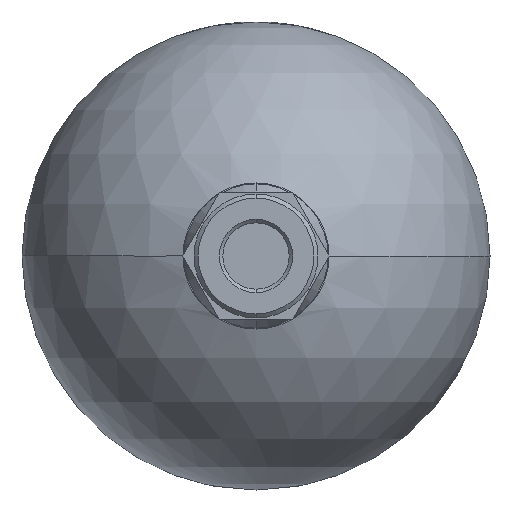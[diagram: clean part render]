
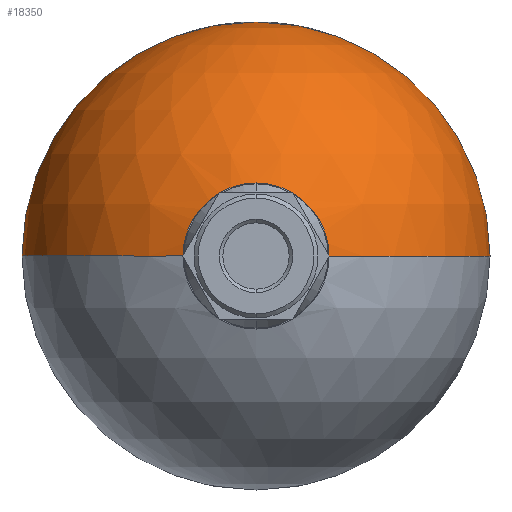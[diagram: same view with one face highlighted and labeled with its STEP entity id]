
A CAD part, front view. The second image highlights one B-rep face of the part: STEP entity #18350.
In plain terms, the highlighted spherical face has radius 85 mm.
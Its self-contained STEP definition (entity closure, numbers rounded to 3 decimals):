
#17 = ORIENTED_EDGE ( 'NONE', *, *, #10500, .T. ) ;
#347 = CARTESIAN_POINT ( 'NONE',  ( 0., 115.17, 0. ) ) ;
#1124 = CARTESIAN_POINT ( 'NONE',  ( 26.541, 34.42, 0. ) ) ;
#1386 = CIRCLE ( 'NONE', #16449, 26.541 ) ;
#1974 = DIRECTION ( 'NONE',  ( 0., 1., 0. ) ) ;
#2063 = DIRECTION ( 'NONE',  ( 0., 0., 1. ) ) ;
#2237 = VERTEX_POINT ( 'NONE', #13927 ) ;
#3668 = DIRECTION ( 'NONE',  ( 1., 0., 0. ) ) ;
#4994 = VERTEX_POINT ( 'NONE', #6180 ) ;
#5174 = CARTESIAN_POINT ( 'NONE',  ( 0., 115.17, 0. ) ) ;
#5213 = AXIS2_PLACEMENT_3D ( 'NONE', #22151, #2063, #3668 ) ;
#6008 = CARTESIAN_POINT ( 'NONE',  ( 0., 115.17, 0. ) ) ;
#6104 = AXIS2_PLACEMENT_3D ( 'NONE', #347, #7998, #1974 ) ;
#6180 = CARTESIAN_POINT ( 'NONE',  ( 0., 115.17, 85. ) ) ;
#6557 = VERTEX_POINT ( 'NONE', #17214 ) ;
#6727 = VERTEX_POINT ( 'NONE', #19788 ) ;
#6758 = DIRECTION ( 'NONE',  ( 0., 0., -1. ) ) ;
#7400 = DIRECTION ( 'NONE',  ( 0., 0., -1. ) ) ;
#7842 = CARTESIAN_POINT ( 'NONE',  ( 0., 34.42, 0. ) ) ;
#7998 = DIRECTION ( 'NONE',  ( 0., 0., -1. ) ) ;
#8217 = ORIENTED_EDGE ( 'NONE', *, *, #22524, .F. ) ;
#8239 = DIRECTION ( 'NONE',  ( 0., 0., -1. ) ) ;
#8823 = EDGE_CURVE ( 'NONE', #2237, #9968, #9094, .T. ) ;
#9094 = CIRCLE ( 'NONE', #6104, 85. ) ;
#9968 = VERTEX_POINT ( 'NONE', #1124 ) ;
#10200 = DIRECTION ( 'NONE',  ( 0., 0., 1. ) ) ;
#10233 = AXIS2_PLACEMENT_3D ( 'NONE', #24027, #13622, #7400 ) ;
#10347 = EDGE_LOOP ( 'NONE', ( #23502, #17, #23427, #8217, #24367, #17425 ) ) ;
#10500 = EDGE_CURVE ( 'NONE', #4994, #6727, #11104, .T. ) ;
#11104 = CIRCLE ( 'NONE', #10233, 85. ) ;
#11904 = CARTESIAN_POINT ( 'NONE',  ( 0., 34.42, 26.541 ) ) ;
#12772 = VERTEX_POINT ( 'NONE', #11904 ) ;
#13622 = DIRECTION ( 'NONE',  ( 0., -1., 0. ) ) ;
#13927 = CARTESIAN_POINT ( 'NONE',  ( 85., 115.17, 0. ) ) ;
#14078 = DIRECTION ( 'NONE',  ( 0., -1., 0. ) ) ;
#15275 = CARTESIAN_POINT ( 'NONE',  ( 0., 34.42, 0. ) ) ;
#16449 = AXIS2_PLACEMENT_3D ( 'NONE', #15275, #21615, #6758 ) ;
#16815 = SPHERICAL_SURFACE ( 'NONE', #26576, 85. ) ;
#16933 = DIRECTION ( 'NONE',  ( 0., 0., -1. ) ) ;
#17207 = DIRECTION ( 'NONE',  ( 0., -1., 0. ) ) ;
#17214 = CARTESIAN_POINT ( 'NONE',  ( -26.541, 34.42, 0. ) ) ;
#17425 = ORIENTED_EDGE ( 'NONE', *, *, #8823, .F. ) ;
#17780 = CIRCLE ( 'NONE', #22091, 85. ) ;
#18350 = ADVANCED_FACE ( 'NONE', ( #19694 ), #16815, .T. ) ;
#19039 = CIRCLE ( 'NONE', #5213, 85. ) ;
#19694 = FACE_OUTER_BOUND ( 'NONE', #10347, .T. ) ;
#19788 = CARTESIAN_POINT ( 'NONE',  ( -85., 115.17, 0. ) ) ;
#21615 = DIRECTION ( 'NONE',  ( 0., -1., 0. ) ) ;
#21780 = CIRCLE ( 'NONE', #22632, 26.541 ) ;
#21809 = EDGE_CURVE ( 'NONE', #6727, #6557, #19039, .T. ) ;
#22091 = AXIS2_PLACEMENT_3D ( 'NONE', #5174, #17207, #16933 ) ;
#22151 = CARTESIAN_POINT ( 'NONE',  ( 0., 115.17, 0. ) ) ;
#22524 = EDGE_CURVE ( 'NONE', #12772, #6557, #1386, .T. ) ;
#22632 = AXIS2_PLACEMENT_3D ( 'NONE', #7842, #14078, #8239 ) ;
#23427 = ORIENTED_EDGE ( 'NONE', *, *, #21809, .T. ) ;
#23502 = ORIENTED_EDGE ( 'NONE', *, *, #24480, .T. ) ;
#24027 = CARTESIAN_POINT ( 'NONE',  ( 0., 115.17, 0. ) ) ;
#24367 = ORIENTED_EDGE ( 'NONE', *, *, #26560, .F. ) ;
#24480 = EDGE_CURVE ( 'NONE', #2237, #4994, #17780, .T. ) ;
#24519 = DIRECTION ( 'NONE',  ( 1., 0., 0. ) ) ;
#26560 = EDGE_CURVE ( 'NONE', #9968, #12772, #21780, .T. ) ;
#26576 = AXIS2_PLACEMENT_3D ( 'NONE', #6008, #10200, #24519 ) ;
